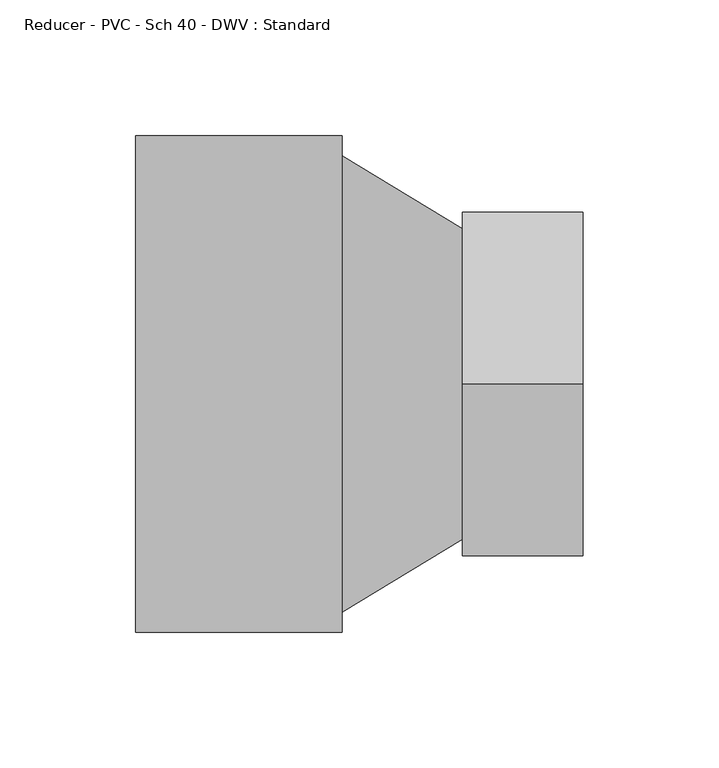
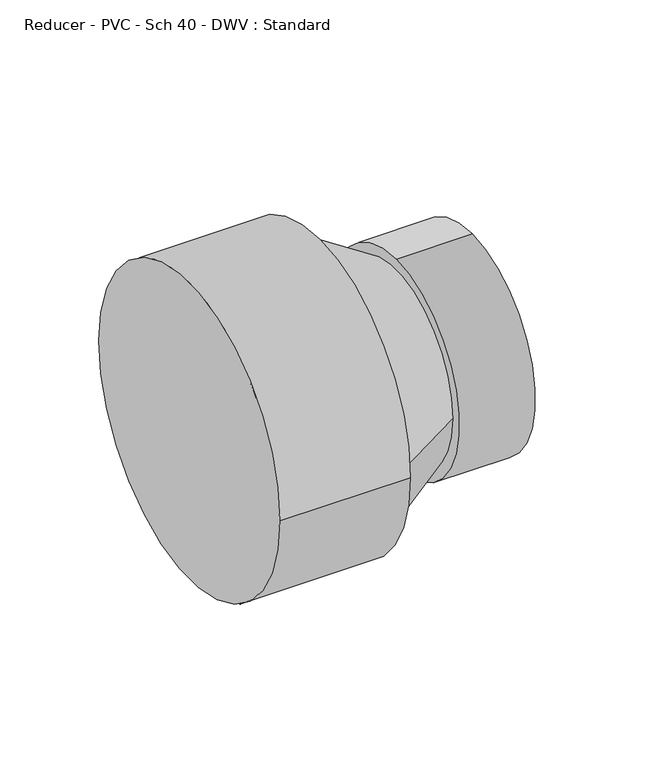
"""IFC4 building model written with IfcOpenShell, lengths in millimetres: pipe fitting geometry, Reducer - PVC - Sch 40 - DWV : Standard."""

from ifc_helpers import new_model, si_unit, frame, origin, place, context, project, spatial, polyline, circle_curve, source, transform, mapped, element, save
from ifc_brep_helpers import plane_surface, cylinder_surface, revolved_surface, advanced_brep


def reducer_pvc_sch_40_dwv_standard_1f0c87c7(model_context):
    return source(origin(), model_context, "Body", "AdvancedBrep", [
        advanced_brep(
        [(0.0, -91.5543, 0.0), (0.0, 91.5543, 0.0), (76.2, -91.5543, 0.0), (76.2, 91.5543, 0.0), (76.2, 84.1375, 0.0), (76.2, -84.1375, 0.0), (120.65, 57.15, 0.0), (120.65, -57.15, 0.0), (120.65, 0.0, 63.754), (120.65, 0.0, -63.754), (165.1, 0.0, 63.754), (165.1, 0.0, -63.754)],
        [
            (0, 1, circle_curve(frame((0.0, 0.0, 0.0), z_axis=(-1.0, 0.0, 0.0), x_axis=(0.0, 1.0, 0.0)), 91.5543)),
            (1, 0, circle_curve(frame((0.0, 0.0, 0.0), z_axis=(-1.0, 0.0, 0.0), x_axis=(0.0, 1.0, 0.0)), 91.5543)),
            (2, 3, circle_curve(frame((76.2, 0.0, 0.0), z_axis=(1.0, 0.0, 0.0), x_axis=(0.0, 1.0, 0.0)), 91.5543)),
            (3, 2, circle_curve(frame((76.2, 0.0, 0.0), z_axis=(1.0, 0.0, 0.0), x_axis=(0.0, 1.0, 0.0)), 91.5543)),
            (4, 5, circle_curve(frame((76.2, 0.0, 0.0), z_axis=(-1.0, 0.0, 0.0), x_axis=(0.0, -1.0, 0.0)), 84.1375)),
            (5, 4, circle_curve(frame((76.2, 0.0, 0.0), z_axis=(-1.0, 0.0, 0.0), x_axis=(0.0, 1.0, 0.0)), 84.1375)),
            (0, 2),
            (3, 1),
            (4, 6),
            (6, 7, circle_curve(frame((120.65, 0.0, 0.0), z_axis=(-1.0, 0.0, 0.0), x_axis=(0.0, -1.0, 0.0)), 57.15)),
            (7, 5),
            (7, 6, circle_curve(frame((120.65, 0.0, 0.0), z_axis=(-1.0, 0.0, 0.0), x_axis=(0.0, 1.0, 0.0)), 57.15)),
            (8, 9, circle_curve(frame((120.65, 0.0, 0.0), z_axis=(-1.0, 0.0, 0.0), x_axis=(0.0, 0.0, -1.0)), 63.754)),
            (9, 8, circle_curve(frame((120.65, 0.0, 0.0), z_axis=(-1.0, 0.0, 0.0), x_axis=(0.0, 0.0, -1.0)), 63.754)),
            (10, 11, circle_curve(frame((165.1, 0.0, 0.0), z_axis=(1.0, 0.0, 0.0), x_axis=(0.0, 0.0, -1.0)), 63.754)),
            (11, 10, circle_curve(frame((165.1, 0.0, 0.0), z_axis=(1.0, 0.0, 0.0), x_axis=(0.0, 0.0, -1.0)), 63.754)),
            (8, 10),
            (11, 9),
        ],
        [
            plane_surface(frame((0.0, 0.0, 0.0), z_axis=(-1.0, 0.0, 0.0), x_axis=(0.0, 0.0, 1.0))),
            plane_surface(frame((76.2, 0.0, 0.0), z_axis=(1.0, 0.0, 0.0), x_axis=(0.0, 0.0, 1.0))),
            cylinder_surface(frame((0.0, 0.0, 0.0), z_axis=(-1.0, 0.0, 0.0), x_axis=(0.0, 1.0, 0.0)), 91.5543),
            revolved_surface(polyline([(120.65, 57.15000000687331, 0.0), (76.19999999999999, 84.1375, 0.0)]), (214.7794118, 0.0, 0.0), (-1.0, 0.0, 0.0)),
            plane_surface(frame((120.65, 0.0, 0.0), z_axis=(-1.0, 0.0, 0.0), x_axis=(0.0, 1.0, 0.0))),
            plane_surface(frame((165.1, 0.0, 0.0), z_axis=(1.0, 0.0, 0.0), x_axis=(0.0, 1.0, 0.0))),
            cylinder_surface(frame((120.65, 0.0, 0.0), z_axis=(-1.0, 0.0, 0.0), x_axis=(0.0, 0.0, -1.0)), 63.754),
        ],
        [
            (0, [[1, 2]]),
            (1, [[3, 4], [5, 6]]),
            (2, [[-1, 7, -4, 8]]),
            (2, [[-2, -8, -3, -7]]),
            (3, [[9, 10, 11, -5]]),
            (3, [[-9, -6, -11, 12]]),
            (4, [[13, 14], [-10, -12]]),
            (5, [[15, 16]]),
            (6, [[-13, 17, -16, 18]]),
            (6, [[-14, -18, -15, -17]]),
        ],
    ),
    ])


if __name__ == "__main__":
    model = new_model("IFC4")
    model_context = context("Model", 3, world=origin())
    ifc_project = project(units=[si_unit("LENGTHUNIT", "METRE", prefix="MILLI")], contexts=[model_context])
    site = spatial("IfcSite", under=ifc_project)
    building = spatial("IfcBuilding", under=site)
    placement = place(None, origin())
    reducer_pvc_sch_40_dwv_standard_shape = reducer_pvc_sch_40_dwv_standard_1f0c87c7(model_context)
    element("IfcPipeFitting", 1, ObjectType="Reducer - PVC - Sch 40 - DWV : Standard", at=placement, inside=building, context=model_context, shape_type="MappedRepresentation", body=[
        mapped(reducer_pvc_sch_40_dwv_standard_shape, transform((0.0, 0.0, 0.0), x_axis=(1.0, 0.0, 0.0), y_axis=(0.0, 1.0, 0.0), z_axis=(0.0, 0.0, 1.0))),
    ])
    save(model, "model.ifc")
